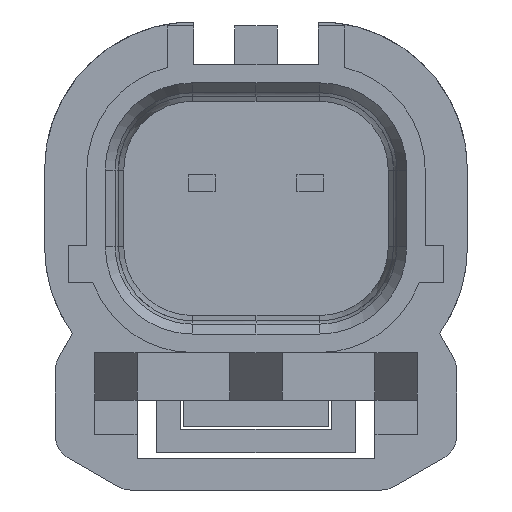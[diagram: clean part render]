
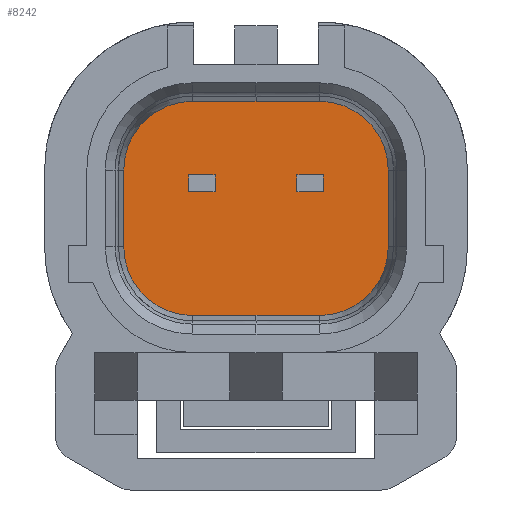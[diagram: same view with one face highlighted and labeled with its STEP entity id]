
A CAD part, left-side view. The second image highlights one B-rep face of the part: STEP entity #8242.
In plain terms, the highlighted planar face has unit normal (-1, 0, 0).
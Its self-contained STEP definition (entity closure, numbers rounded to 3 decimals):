
#2226=CARTESIAN_POINT('Line Origine',(13.3,0.,4.05)) ;
#2230=CARTESIAN_POINT('Vertex',(13.3,-2.4,4.05)) ;
#2232=CARTESIAN_POINT('Vertex',(13.3,2.4,4.05)) ;
#2268=CARTESIAN_POINT('Line Origine',(13.3,1.2,-4.05)) ;
#2272=CARTESIAN_POINT('Vertex',(13.3,2.4,-4.05)) ;
#2274=CARTESIAN_POINT('Vertex',(13.3,0.,-4.05)) ;
#3193=CARTESIAN_POINT('Axis2P3D Location',(13.3,2.4,1.45)) ;
#3197=CARTESIAN_POINT('Vertex',(13.3,5.,1.45)) ;
#3217=CARTESIAN_POINT('Line Origine',(13.3,5.,0.)) ;
#3221=CARTESIAN_POINT('Vertex',(13.3,5.,-1.45)) ;
#3251=CARTESIAN_POINT('Axis2P3D Location',(13.3,2.4,-1.45)) ;
#6049=CARTESIAN_POINT('Vertex',(13.3,-2.4,-4.05)) ;
#6052=CARTESIAN_POINT('Line Origine',(13.3,-1.2,-4.05)) ;
#6465=CARTESIAN_POINT('Axis2P3D Location',(13.3,-2.4,1.45)) ;
#6469=CARTESIAN_POINT('Vertex',(13.3,-5.,1.45)) ;
#6493=CARTESIAN_POINT('Vertex',(13.3,-5.,-1.45)) ;
#6506=CARTESIAN_POINT('Line Origine',(13.3,-5.,0.)) ;
#6523=CARTESIAN_POINT('Axis2P3D Location',(13.3,-2.4,-1.45)) ;
#8158=CARTESIAN_POINT('Axis2P3D Location',(13.3,-27.156,1.316)) ;
#8174=CARTESIAN_POINT('Line Origine',(13.3,-2.55,0.95)) ;
#8178=CARTESIAN_POINT('Vertex',(13.3,-2.55,0.63)) ;
#8180=CARTESIAN_POINT('Vertex',(13.3,-2.55,1.27)) ;
#8183=CARTESIAN_POINT('Line Origine',(13.3,-2.05,0.63)) ;
#8187=CARTESIAN_POINT('Vertex',(13.3,-1.55,0.63)) ;
#8190=CARTESIAN_POINT('Line Origine',(13.3,-1.55,0.95)) ;
#8194=CARTESIAN_POINT('Vertex',(13.3,-1.55,1.27)) ;
#8197=CARTESIAN_POINT('Line Origine',(13.3,-2.05,1.27)) ;
#8208=CARTESIAN_POINT('Line Origine',(13.3,2.05,1.27)) ;
#8212=CARTESIAN_POINT('Vertex',(13.3,2.55,1.27)) ;
#8214=CARTESIAN_POINT('Vertex',(13.3,1.55,1.27)) ;
#8217=CARTESIAN_POINT('Line Origine',(13.3,1.55,0.95)) ;
#8221=CARTESIAN_POINT('Vertex',(13.3,1.55,0.63)) ;
#8224=CARTESIAN_POINT('Line Origine',(13.3,2.05,0.63)) ;
#8228=CARTESIAN_POINT('Vertex',(13.3,2.55,0.63)) ;
#8231=CARTESIAN_POINT('Line Origine',(13.3,2.55,0.95)) ;
#2227=DIRECTION('Vector Direction',(0.,1.,0.)) ;
#2269=DIRECTION('Vector Direction',(0.,-1.,0.)) ;
#3194=DIRECTION('Axis2P3D Direction',(-1.,0.,0.)) ;
#3218=DIRECTION('Vector Direction',(0.,0.,1.)) ;
#3252=DIRECTION('Axis2P3D Direction',(-1.,0.,0.)) ;
#6053=DIRECTION('Vector Direction',(0.,1.,0.)) ;
#6466=DIRECTION('Axis2P3D Direction',(1.,0.,0.)) ;
#6507=DIRECTION('Vector Direction',(0.,0.,1.)) ;
#6524=DIRECTION('Axis2P3D Direction',(1.,0.,0.)) ;
#8159=DIRECTION('Axis2P3D Direction',(1.,0.,0.)) ;
#8160=DIRECTION('Axis2P3D XDirection',(0.,0.,-1.)) ;
#8175=DIRECTION('Vector Direction',(0.,0.,1.)) ;
#8184=DIRECTION('Vector Direction',(0.,1.,0.)) ;
#8191=DIRECTION('Vector Direction',(0.,0.,-1.)) ;
#8198=DIRECTION('Vector Direction',(0.,-1.,0.)) ;
#8209=DIRECTION('Vector Direction',(0.,-1.,0.)) ;
#8218=DIRECTION('Vector Direction',(0.,0.,-1.)) ;
#8225=DIRECTION('Vector Direction',(0.,1.,0.)) ;
#8232=DIRECTION('Vector Direction',(0.,0.,1.)) ;
#3195=AXIS2_PLACEMENT_3D('Circle Axis2P3D',#3193,#3194,$) ;
#3253=AXIS2_PLACEMENT_3D('Circle Axis2P3D',#3251,#3252,$) ;
#6467=AXIS2_PLACEMENT_3D('Circle Axis2P3D',#6465,#6466,$) ;
#6525=AXIS2_PLACEMENT_3D('Circle Axis2P3D',#6523,#6524,$) ;
#8161=AXIS2_PLACEMENT_3D('Plane Axis2P3D',#8158,#8159,#8160) ;
#8164=ORIENTED_EDGE('',*,*,#6510,.T.) ;
#8165=ORIENTED_EDGE('',*,*,#6471,.F.) ;
#8166=ORIENTED_EDGE('',*,*,#2234,.T.) ;
#8167=ORIENTED_EDGE('',*,*,#3199,.F.) ;
#8168=ORIENTED_EDGE('',*,*,#3223,.F.) ;
#8169=ORIENTED_EDGE('',*,*,#3255,.F.) ;
#8170=ORIENTED_EDGE('',*,*,#2276,.T.) ;
#8171=ORIENTED_EDGE('',*,*,#6056,.F.) ;
#8172=ORIENTED_EDGE('',*,*,#6527,.F.) ;
#8203=ORIENTED_EDGE('',*,*,#8182,.F.) ;
#8204=ORIENTED_EDGE('',*,*,#8189,.F.) ;
#8205=ORIENTED_EDGE('',*,*,#8196,.F.) ;
#8206=ORIENTED_EDGE('',*,*,#8201,.F.) ;
#8237=ORIENTED_EDGE('',*,*,#8216,.T.) ;
#8238=ORIENTED_EDGE('',*,*,#8223,.T.) ;
#8239=ORIENTED_EDGE('',*,*,#8230,.T.) ;
#8240=ORIENTED_EDGE('',*,*,#8235,.T.) ;
#8207=FACE_BOUND('',#8202,.T.) ;
#8241=FACE_BOUND('',#8236,.T.) ;
#2228=VECTOR('Line Direction',#2227,1.) ;
#2270=VECTOR('Line Direction',#2269,1.) ;
#3219=VECTOR('Line Direction',#3218,1.) ;
#6054=VECTOR('Line Direction',#6053,1.) ;
#6508=VECTOR('Line Direction',#6507,1.) ;
#8176=VECTOR('Line Direction',#8175,1.) ;
#8185=VECTOR('Line Direction',#8184,1.) ;
#8192=VECTOR('Line Direction',#8191,1.) ;
#8199=VECTOR('Line Direction',#8198,1.) ;
#8210=VECTOR('Line Direction',#8209,1.) ;
#8219=VECTOR('Line Direction',#8218,1.) ;
#8226=VECTOR('Line Direction',#8225,1.) ;
#8233=VECTOR('Line Direction',#8232,1.) ;
#8242=ADVANCED_FACE('6188-0590',(#8173,#8207,#8241),#8162,.F.) ;
#3196=CIRCLE('generated circle',#3195,2.6) ;
#3254=CIRCLE('generated circle',#3253,2.6) ;
#6468=CIRCLE('generated circle',#6467,2.6) ;
#6526=CIRCLE('generated circle',#6525,2.6) ;
#2234=EDGE_CURVE('',#2231,#2233,#2229,.T.) ;
#2276=EDGE_CURVE('',#2273,#2275,#2271,.T.) ;
#3199=EDGE_CURVE('',#3198,#2233,#3196,.F.) ;
#3223=EDGE_CURVE('',#3222,#3198,#3220,.T.) ;
#3255=EDGE_CURVE('',#2273,#3222,#3254,.F.) ;
#6056=EDGE_CURVE('',#6050,#2275,#6055,.T.) ;
#6471=EDGE_CURVE('',#2231,#6470,#6468,.T.) ;
#6510=EDGE_CURVE('',#6494,#6470,#6509,.T.) ;
#6527=EDGE_CURVE('',#6494,#6050,#6526,.T.) ;
#8182=EDGE_CURVE('',#8179,#8181,#8177,.T.) ;
#8189=EDGE_CURVE('',#8188,#8179,#8186,.F.) ;
#8196=EDGE_CURVE('',#8195,#8188,#8193,.T.) ;
#8201=EDGE_CURVE('',#8181,#8195,#8200,.F.) ;
#8216=EDGE_CURVE('',#8213,#8215,#8211,.T.) ;
#8223=EDGE_CURVE('',#8215,#8222,#8220,.T.) ;
#8230=EDGE_CURVE('',#8222,#8229,#8227,.T.) ;
#8235=EDGE_CURVE('',#8229,#8213,#8234,.T.) ;
#8163=EDGE_LOOP('',(#8164,#8165,#8166,#8167,#8168,#8169,#8170,#8171,#8172)) ;
#8202=EDGE_LOOP('',(#8203,#8204,#8205,#8206)) ;
#8236=EDGE_LOOP('',(#8237,#8238,#8239,#8240)) ;
#8173=FACE_OUTER_BOUND('',#8163,.T.) ;
#2229=LINE('Line',#2226,#2228) ;
#2271=LINE('Line',#2268,#2270) ;
#3220=LINE('Line',#3217,#3219) ;
#6055=LINE('Line',#6052,#6054) ;
#6509=LINE('Line',#6506,#6508) ;
#8177=LINE('Line',#8174,#8176) ;
#8186=LINE('Line',#8183,#8185) ;
#8193=LINE('Line',#8190,#8192) ;
#8200=LINE('Line',#8197,#8199) ;
#8211=LINE('Line',#8208,#8210) ;
#8220=LINE('Line',#8217,#8219) ;
#8227=LINE('Line',#8224,#8226) ;
#8234=LINE('Line',#8231,#8233) ;
#8162=PLANE('',#8161) ;
#2231=VERTEX_POINT('',#2230) ;
#2233=VERTEX_POINT('',#2232) ;
#2273=VERTEX_POINT('',#2272) ;
#2275=VERTEX_POINT('',#2274) ;
#3198=VERTEX_POINT('',#3197) ;
#3222=VERTEX_POINT('',#3221) ;
#6050=VERTEX_POINT('',#6049) ;
#6470=VERTEX_POINT('',#6469) ;
#6494=VERTEX_POINT('',#6493) ;
#8179=VERTEX_POINT('',#8178) ;
#8181=VERTEX_POINT('',#8180) ;
#8188=VERTEX_POINT('',#8187) ;
#8195=VERTEX_POINT('',#8194) ;
#8213=VERTEX_POINT('',#8212) ;
#8215=VERTEX_POINT('',#8214) ;
#8222=VERTEX_POINT('',#8221) ;
#8229=VERTEX_POINT('',#8228) ;
